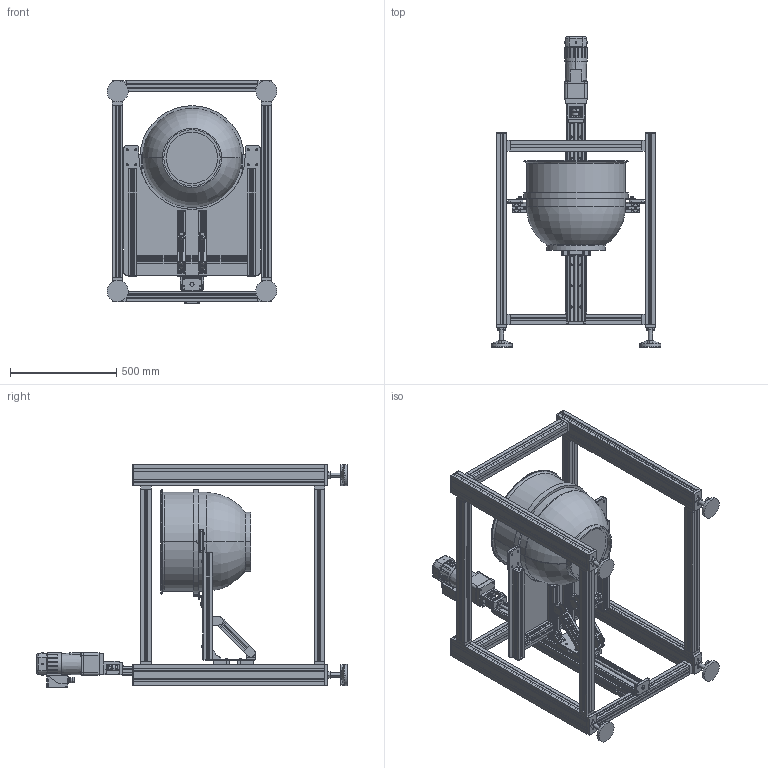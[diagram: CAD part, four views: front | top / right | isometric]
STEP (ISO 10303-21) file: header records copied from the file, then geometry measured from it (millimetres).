
FILE_DESCRIPTION (( 'STEP AP214' ), '1' );
FILE_NAME ('LIFT STATION.STEP', '2021-03-12T00:26:14', ( '' ), ( '' ), 'SwSTEP 2.0', 'SolidWorks 2021', '' );
FILE_SCHEMA (( 'AUTOMOTIVE_DESIGN' ));
Length unit declared in the file: millimetre
Products named in the file (25): socket head cap screw_am_B18.3.1M - 8 x 1.25 x 12 Hex SHCS -- 12NHX; ELC-00020_A; socket head cap screw_am_B18.3.1M - 6 x 1.0 x 100 Hex SHCS -- 24NHX; socket head cap screw_am_B18.3.1M - 6 x 1.0 x 16 Hex SHCS -- 16NHX; socket head cap screw_am_B18.3.1M - 5 x 0.8 x 25 Hex SHCS -- 25NHX; MISC1812ES120BWLTBL; MISC1812HS120BWLSLT; MIXING BOWL ASSY; LIFT STATION; PIL5050SNN-810MM; LINEAR ACTUATOR; MISC1812DS120HPCARMNT; socket button head cap screw_am_B18.3.4M - 8 x 1.25 x 16 SBHCS --N; MISC1812FS120BWLPIN-LS; socket button head cap screw_am_B18.3.4M - 6 x 1.0 x 20 SBHCS --N; socket button head cap screw_am_B18.3.4M - 8 x 1.25 x 25 SBHCS --N; A386; PIL5010SNN-735MM; BOWL SUPPORT; PIL5010SNN-900MM; A1 BLOCK WITH COVER; PIL5050SNN-620MM; MISC1812FS120MTRFLG; socket head shoulder screw2_am_B18.3.3M - 6.5 x 12 SHSS --N; MISC1812FS120BWLPIN-RS
Assembly tree (73 placements, depth 2):
  LIFT STATION
    PIL5010SNN-900MM  x4
    PIL5050SNN-810MM  x4
    PIL5050SNN-620MM  x3
    PIL5010SNN-735MM
    LINEAR ACTUATOR
    A1 BLOCK WITH COVER  x2
    BOWL SUPPORT
    MISC1812DS120HPCARMNT
    MISC1812ES120BWLTBL
    MISC1812FS120BWLPIN-LS
    MISC1812FS120BWLPIN-RS
    MISC1812HS120BWLSLT
    ELC-00020_A
    MISC1812FS120MTRFLG
    A386
    MIXING BOWL ASSY
    socket button head cap screw_am_B18.3.4M - 8 x 1.25 x 16 SBHCS --N  x8
    socket head cap screw_am_B18.3.1M - 8 x 1.25 x 12 Hex SHCS -- 12NHX  x8
    socket button head cap screw_am_B18.3.4M - 6 x 1.0 x 20 SBHCS --N  x4
    socket head shoulder screw2_am_B18.3.3M - 6.5 x 12 SHSS --N  x2
    socket head cap screw_am_B18.3.1M - 6 x 1.0 x 16 Hex SHCS -- 16NHX  x16
    socket head cap screw_am_B18.3.1M - 6 x 1.0 x 100 Hex SHCS -- 24NHX  x4
    socket head cap screw_am_B18.3.1M - 5 x 0.8 x 25 Hex SHCS -- 25NHX  x4
    socket button head cap screw_am_B18.3.4M - 8 x 1.25 x 25 SBHCS --N  x2
Bounding box: 799.87 x 1459.16 x 1048 mm (x, y, z)
Volume: 34035444.1 mm3; surface area: 12173670.9 mm2
Topology: 192 solids, 196 shells, 6076 faces, 15285 edges, 9691 vertices
Faces by surface type: plane 4043, cylinder 1239, cone 478, torus 200, sphere 72, bspline 44
Entity records: 139818 total; most frequent: CARTESIAN_POINT 25704, DIRECTION 18892, ORIENTED_EDGE 18614, EDGE_CURVE 9311, LINE 6564, VECTOR 6564, AXIS2_PLACEMENT_3D 6164, VERTEX_POINT 6011
